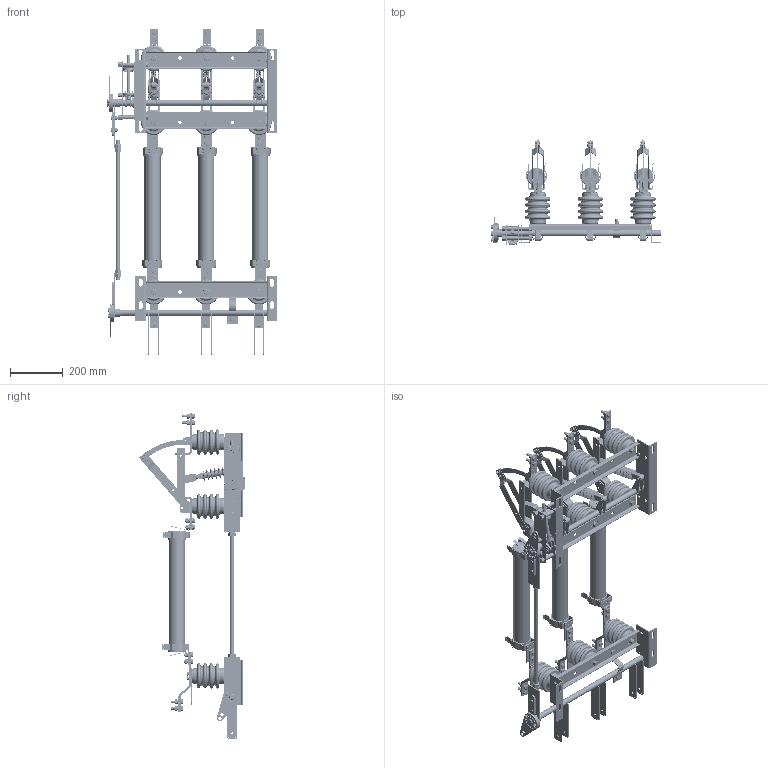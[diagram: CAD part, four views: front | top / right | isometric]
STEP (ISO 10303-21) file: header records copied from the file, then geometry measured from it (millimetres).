
FILE_DESCRIPTION (( 'STEP AP214' ), '1' );
FILE_NAME ('Âûêëþ÷àòåëü íàãðóçêè ÂÍÀ-10630-Ï-ç-ÏÒ1.2-È2-ÓÕË2-ÊÝÀÇ.STEP', '2023-02-01T06:51:35', ( '' ), ( '' ), 'SwSTEP 2.0', 'SolidWorks 2018', '' );
FILE_SCHEMA (( 'AUTOMOTIVE_DESIGN' ));
Length unit declared in the file: millimetre
Products named in the file (1): Âûêëþ÷àòåëü íàãðóçêè ÂÍÀ-10630-Ï-ç-ÏÒ1.2-È2-ÓÕË2-ÊÝÀÇ
Bounding box: 647.2 x 402.34 x 1237.98 mm (x, y, z)
Volume: 13363806.7 mm3; surface area: 2334793 mm2
Topology: 1 solids, 59 shells, 6009 faces, 15137 edges, 9538 vertices
Faces by surface type: plane 2968, cylinder 2023, cone 722, torus 290, bspline 6
Full cylindrical faces by diameter (mm): 4.2 x24, 8.2 x2, 8.993 x5, 9 x6, 9.5 x18, 10.8 x26, 12.35 x14, 12.704 x1, 12.915 x1, 12.977 x1, 13.051 x3, 14.508 x4, 15.19 x4, 16 x1, 16.205 x4, 17.1 x3, 22 x3, 70 x7
Entity records: 220118 total; most frequent: CARTESIAN_POINT 75756, DIRECTION 30464, ORIENTED_EDGE 29862, EDGE_CURVE 14931, AXIS2_PLACEMENT_3D 11606, VERTEX_POINT 9460, VECTOR 7252, LINE 7252
